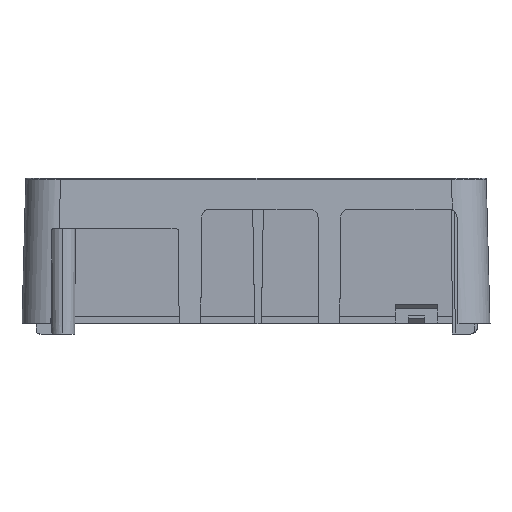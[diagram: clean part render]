
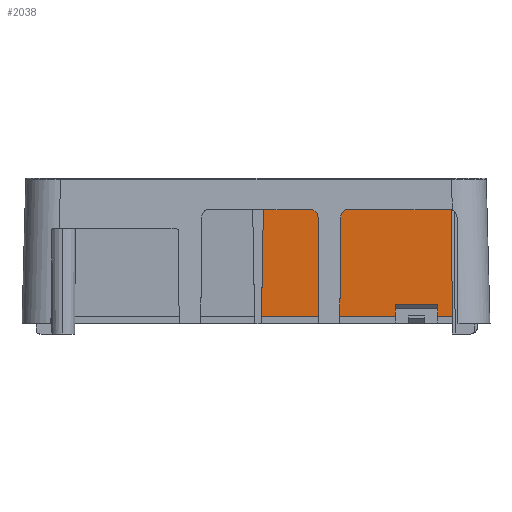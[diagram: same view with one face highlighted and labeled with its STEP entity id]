
A CAD part, left-side view. The second image highlights one B-rep face of the part: STEP entity #2038.
In plain terms, the highlighted planar face has unit normal (-1, 0, -0.026).
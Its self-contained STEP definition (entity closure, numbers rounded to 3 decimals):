
#337 = VECTOR ( 'NONE', #7813, 1000. ) ;
#477 = CARTESIAN_POINT ( 'NONE',  ( 43.346, -25.847, 20. ) ) ;
#994 = VERTEX_POINT ( 'NONE', #477 ) ;
#1041 = VERTEX_POINT ( 'NONE', #8547 ) ;
#1184 = ORIENTED_EDGE ( 'NONE', *, *, #12706, .T. ) ;
#1475 = LINE ( 'NONE', #4077, #4402 ) ;
#1864 = VERTEX_POINT ( 'NONE', #12372 ) ;
#2038 = ADVANCED_FACE ( 'NONE', ( #14525 ), #2146, .F. ) ;
#2065 = VERTEX_POINT ( 'NONE', #6408 ) ;
#2146 = PLANE ( 'NONE',  #4397 ) ;
#2218 = VECTOR ( 'NONE', #3275, 1000. ) ;
#2701 = CARTESIAN_POINT ( 'NONE',  ( 43.737, -18.542, 5.1 ) ) ;
#3114 = VECTOR ( 'NONE', #11389, 1000. ) ;
#3275 = DIRECTION ( 'NONE',  ( 0.026, -0.026, -0.999 ) ) ;
#3677 = CARTESIAN_POINT ( 'NONE',  ( 43.776, -1.213, 3.6 ) ) ;
#4077 = CARTESIAN_POINT ( 'NONE',  ( 43.346, -30.8, 20. ) ) ;
#4222 = VERTEX_POINT ( 'NONE', #13636 ) ;
#4397 = AXIS2_PLACEMENT_3D ( 'NONE', #8764, #14178, #5444 ) ;
#4402 = VECTOR ( 'NONE', #10269, 1000. ) ;
#4490 = ORIENTED_EDGE ( 'NONE', *, *, #15613, .T. ) ;
#4799 = LINE ( 'NONE', #6575, #337 ) ;
#4853 = VERTEX_POINT ( 'NONE', #14129 ) ;
#4954 = ORIENTED_EDGE ( 'NONE', *, *, #14047, .T. ) ;
#5444 = DIRECTION ( 'NONE',  ( 0.026, 0., -1. ) ) ;
#5795 = VERTEX_POINT ( 'NONE', #3677 ) ;
#5911 = VERTEX_POINT ( 'NONE', #2701 ) ;
#6304 = CARTESIAN_POINT ( 'NONE',  ( 43.801, -18.542, 2.661 ) ) ;
#6376 = VECTOR ( 'NONE', #15934, 1000. ) ;
#6408 = CARTESIAN_POINT ( 'NONE',  ( 43.776, -26.277, 3.6 ) ) ;
#6531 = LINE ( 'NONE', #9678, #12756 ) ;
#6575 = CARTESIAN_POINT ( 'NONE',  ( 43.776, -30.8, 3.6 ) ) ;
#6965 = EDGE_CURVE ( 'NONE', #5795, #1864, #4799, .T. ) ;
#7372 = ORIENTED_EDGE ( 'NONE', *, *, #8713, .F. ) ;
#7555 = DIRECTION ( 'NONE',  ( -0.026, 0., 1. ) ) ;
#7780 = ORIENTED_EDGE ( 'NONE', *, *, #8610, .T. ) ;
#7813 = DIRECTION ( 'NONE',  ( 0., -1., 0. ) ) ;
#8547 = CARTESIAN_POINT ( 'NONE',  ( 43.737, -24.058, 5.1 ) ) ;
#8610 = EDGE_CURVE ( 'NONE', #1864, #5911, #15515, .T. ) ;
#8713 = EDGE_CURVE ( 'NONE', #4853, #994, #1475, .T. ) ;
#8764 = CARTESIAN_POINT ( 'NONE',  ( 43.801, -30.8, 2.661 ) ) ;
#8835 = LINE ( 'NONE', #11866, #2218 ) ;
#8891 = ORIENTED_EDGE ( 'NONE', *, *, #14770, .T. ) ;
#9355 = EDGE_CURVE ( 'NONE', #994, #2065, #8835, .T. ) ;
#9678 = CARTESIAN_POINT ( 'NONE',  ( 43.801, -24.058, 2.661 ) ) ;
#9816 = EDGE_LOOP ( 'NONE', ( #7372, #4954, #15251, #7780, #1184, #4490, #8891, #11766 ) ) ;
#10269 = DIRECTION ( 'NONE',  ( 0., -1., 0. ) ) ;
#10919 = DIRECTION ( 'NONE',  ( 0.026, 0., -1. ) ) ;
#11389 = DIRECTION ( 'NONE',  ( 0., -1., 0. ) ) ;
#11766 = ORIENTED_EDGE ( 'NONE', *, *, #9355, .F. ) ;
#11866 = CARTESIAN_POINT ( 'NONE',  ( 43.804, -26.305, 2.543 ) ) ;
#12161 = LINE ( 'NONE', #16069, #15102 ) ;
#12177 = VECTOR ( 'NONE', #7555, 1000. ) ;
#12372 = CARTESIAN_POINT ( 'NONE',  ( 43.776, -18.542, 3.6 ) ) ;
#12706 = EDGE_CURVE ( 'NONE', #5911, #1041, #13035, .T. ) ;
#12756 = VECTOR ( 'NONE', #10919, 1000. ) ;
#12994 = LINE ( 'NONE', #13487, #6376 ) ;
#13035 = LINE ( 'NONE', #14992, #3114 ) ;
#13487 = CARTESIAN_POINT ( 'NONE',  ( 43.787, -1.205, 3.177 ) ) ;
#13580 = DIRECTION ( 'NONE',  ( 0., -1., 0. ) ) ;
#13636 = CARTESIAN_POINT ( 'NONE',  ( 43.776, -24.058, 3.6 ) ) ;
#14047 = EDGE_CURVE ( 'NONE', #4853, #5795, #12994, .T. ) ;
#14129 = CARTESIAN_POINT ( 'NONE',  ( 43.346, -1.499, 20. ) ) ;
#14178 = DIRECTION ( 'NONE',  ( 1., 0., 0.026 ) ) ;
#14525 = FACE_OUTER_BOUND ( 'NONE', #9816, .T. ) ;
#14770 = EDGE_CURVE ( 'NONE', #4222, #2065, #12161, .T. ) ;
#14992 = CARTESIAN_POINT ( 'NONE',  ( 43.737, -30.8, 5.1 ) ) ;
#15102 = VECTOR ( 'NONE', #13580, 1000. ) ;
#15251 = ORIENTED_EDGE ( 'NONE', *, *, #6965, .T. ) ;
#15515 = LINE ( 'NONE', #6304, #12177 ) ;
#15613 = EDGE_CURVE ( 'NONE', #1041, #4222, #6531, .T. ) ;
#15934 = DIRECTION ( 'NONE',  ( 0.026, 0.017, -1. ) ) ;
#16069 = CARTESIAN_POINT ( 'NONE',  ( 43.776, -30.8, 3.6 ) ) ;
